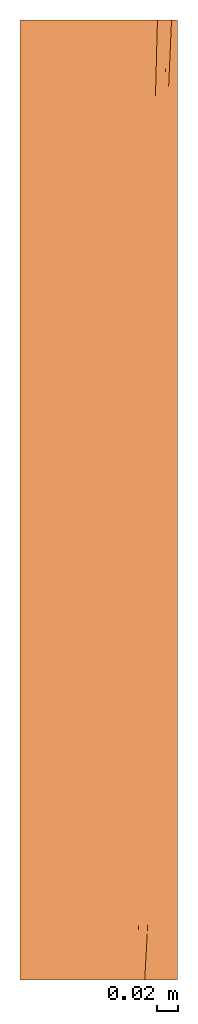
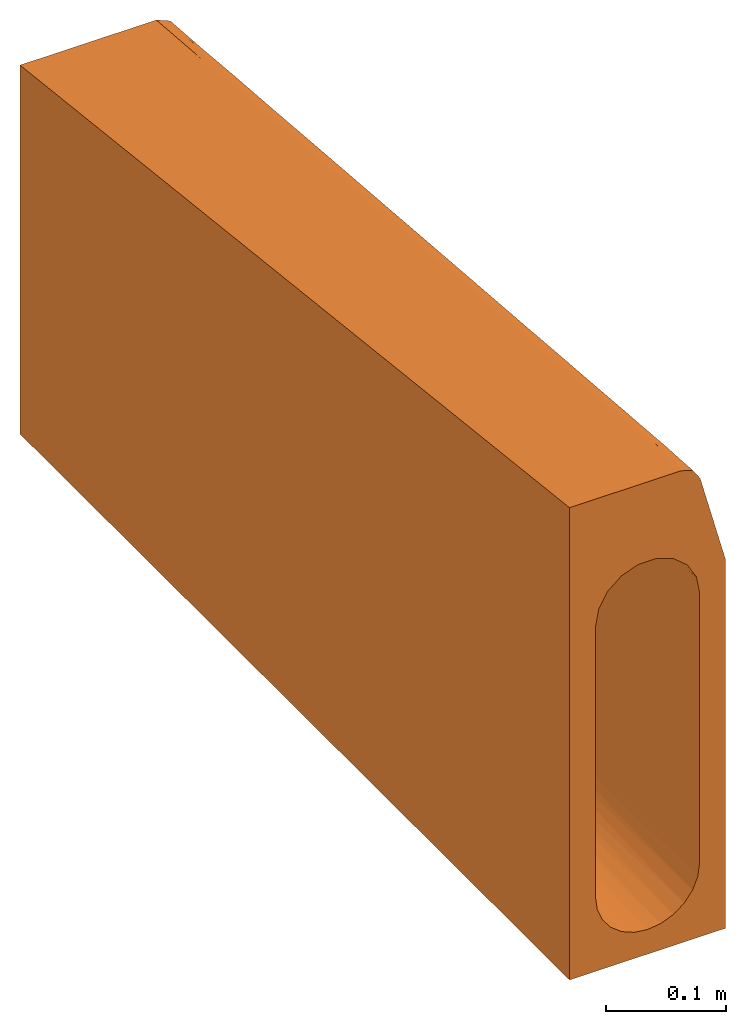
# One storey: 1 proxy.
"""IFC2X3 building model written with IfcOpenShell, lengths in millimetres."""

from ifc_helpers import new_model, entity, si_unit, converted_unit, direction, frame, origin, place, context, subcontext, project, spatial, faceted_brep, source, transform, mapped, material, element, save


model = new_model("IFC2X3")

# Units and contexts
model_context = context("Model", 3, precision=1e-06, world=origin(), true_north=direction((2.0, 6.12303176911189e-17, 1.0)))
context_of_model = context(None, 3, precision=1e-06, world=origin(), true_north=direction((2.0, 6.12303176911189e-17, 1.0)))
body_context = subcontext(model_context, "Body", "Model", "MODEL_VIEW")
ifc_project = project(units=[si_unit("LENGTHUNIT", "METRE", prefix="MILLI"), si_unit("AREAUNIT", "SQUARE_METRE", prefix="MILLI"), si_unit("VOLUMEUNIT", "CUBIC_METRE", prefix="MILLI"), converted_unit("PLANEANGLEUNIT", "DEGREE", entity("IfcRatioMeasure", 0.0174532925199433), si_unit("PLANEANGLEUNIT", "RADIAN"), dimensions=[0, 0, 0, 0, 0, 0, 0]), si_unit("TIMEUNIT", "SECOND")], contexts=[model_context, context_of_model])

# Site, building, storey
site_placement = place(None, origin())
site = spatial("IfcSite", under=ifc_project, at=site_placement, Name="Default", CompositionType="ELEMENT")
building_placement = place(site_placement, origin())
building = spatial("IfcBuilding", under=site, at=building_placement, CompositionType="ELEMENT")
storey_placement = place(building_placement, frame((0.0, 0.0, -300.0)))
storey = spatial("IfcBuildingStorey", under=building, at=storey_placement, Name="T.O. Fnd. Wall", CompositionType="ELEMENT", Elevation=-300.0)

# Proxy
ifc_material = material(Name="ACO Polymer Concrete.")
shared_shape = source(origin(), body_context, "Body", "Brep", [
    faceted_brep([(-75.0, 915.0, -355.0), (-12.9409522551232, 915.0, -328.296291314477), (0.0, 915.0, -330.0), (75.0, 915.0, -355.0), (-25.0, 915.0, -323.301270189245), (-48.2962913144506, 915.0, -292.940952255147), (-43.3012701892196, 915.0, -305.0), (-35.3553390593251, 915.0, -315.35533905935), (-50.0, 915.0, -280.0), (12.94095225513, 915.0, -328.296291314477), (25.0, 915.0, -323.301270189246), (35.355339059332, 915.0, -315.35533905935), (43.3012701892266, 915.0, -305.0), (48.2962913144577, 915.0, -292.940952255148), (50.0, 915.0, -280.0), (50.0, 915.0, -110.0), (75.0, 915.0, 1.0), (-50.0, 915.0, -110.0), (-75.0, 915.0, 20.0), (-46.9862804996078, 915.0, -92.9035253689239), (-25.0056404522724, 915.0, -66.7019868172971), (-31.6586250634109, 915.0, -72.2868986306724), (-38.3116096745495, 915.0, -77.8718104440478), (-8.68537778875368, 915.0, -60.7601359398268), (-16.845509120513, 915.0, -63.7310613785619), (56.0, 915.0, 20.0), (38.2975566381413, 915.0, -77.8550601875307), (25.0028027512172, 915.0, -66.7003481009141), (46.9852258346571, 915.0, -92.9006271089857), (42.6413912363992, 915.0, -85.3778436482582), (8.67379421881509, 915.0, -60.7580941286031), (59.3587572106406, 915.0, 18.6087572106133), (62.7175144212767, 915.0, 17.2175144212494), (16.8382984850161, 915.0, -63.7292211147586), (75.0, 0.0, -355.0), (25.0, 0.0, -323.301270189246), (12.9409522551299, 0.0, -328.296291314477), (35.3553390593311, 0.0, -315.355339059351), (0.0, 0.0, -330.0), (50.0, 0.0, -280.0), (48.2962913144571, 0.0, -292.94095225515), (43.3012701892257, 0.0, -305.0), (75.0, 0.0, 20.0), (50.0, 0.0, -5.0), (-12.9409522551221, 0.0, -328.296291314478), (-75.0, 0.0, -355.0), (-25.0, 0.0, -323.301270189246), (-35.3553390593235, 0.0, -315.355339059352), (-43.3012701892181, 0.0, -305.0), (-48.2962913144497, 0.0, -292.940952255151), (-50.0, 0.0, -280.0), (-50.0, 0.0, -5.0), (-75.0, 0.0, 125.0), (46.9852258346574, 0.0, 12.0993728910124), (38.2975566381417, 0.0, 27.1449398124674), (42.6413912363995, 0.0, 19.6221563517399), (50.6387127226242, 0.0, 110.917561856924), (48.9421818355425, 0.0, 113.456599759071), (32.2861220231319, 0.0, 125.0), (8.6737942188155, 0.0, 44.2419058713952), (25.0028027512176, 0.0, 38.2996518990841), (-38.3116096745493, 0.0, 27.1281895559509), (-31.6586250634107, 0.0, 32.7131013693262), (-25.0056404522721, 0.0, 38.2980131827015), (-46.9862804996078, 0.0, 12.0964746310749), (16.8382984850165, 0.0, 41.2707788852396), (-16.8455091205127, 0.0, 41.2689386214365), (-8.6853777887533, 0.0, 44.2398640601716), (34.3268937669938, 78.7431793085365, 115.963897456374), (46.193976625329, 457.499999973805, -299.134171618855), (6.52630960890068, 663.022798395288, -329.57224306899), (19.1341716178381, 457.499999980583, -326.193976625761), (39.667667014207, 347.332704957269, -310.438071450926), (39.6676670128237, 663.022798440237, -310.438071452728), (30.4380714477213, 567.667295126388, -319.66766701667), (30.4380714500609, 251.977201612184, -319.667667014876), (-39.6676670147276, 251.977201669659, -310.438071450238), (-30.4380714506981, 347.332704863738, -319.667667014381), (-39.6676670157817, 567.667295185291, -310.438071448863), (-30.4380714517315, 663.022798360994, -319.667667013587), (6.52630961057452, 347.332704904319, -329.57224306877), (49.039264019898, 307.805136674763, -289.754516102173), (49.1517479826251, 621.552771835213, -289.17091436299), (50.0, 457.5, -280.0), (-6.52630961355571, 567.667295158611, -329.572243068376), (-6.52630961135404, 251.977201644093, -329.572243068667), (-19.1341716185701, 457.499999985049, -326.193976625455), (-46.1939766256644, 457.499999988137, -299.134171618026), (-49.1517479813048, 293.447228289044, -289.170914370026), (-50.0, 457.5, -280.0), (-49.0392640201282, 607.194863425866, -289.754516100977), (50.0, 228.749977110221, -31.2499973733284), (50.0, 457.499954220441, -57.4999947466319), (-45.6161846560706, 151.374253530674, -1.89732830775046), (-40.525441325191, 151.691640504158, 6.87908369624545), (-26.1425835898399, 319.117169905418, 1.0011808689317), (-22.6264142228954, 468.087887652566, -14.1275009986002), (-17.1054853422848, 291.895291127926, 8.48681992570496), (-13.735126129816, 139.743498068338, 27.0403240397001), (-0.00588310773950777, 207.708977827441, 21.1645431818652), (-45.4895057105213, 457.499999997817, -36.7465696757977), (-43.3061272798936, 291.929965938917, -13.5085746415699), (-48.4959124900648, 343.124993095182, -32.2034556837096), (-50.0, 228.7500118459, -31.2500013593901), (-48.8150241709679, 156.499635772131, -12.1380035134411), (-43.3061272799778, 623.070034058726, -51.5082545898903), (-32.1474698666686, 707.32437630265, -47.8729381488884), (-39.7970535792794, 438.303503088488, -25.0284179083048), (-25.3659134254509, 643.403662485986, -35.7452687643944), (-17.1054853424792, 623.104708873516, -29.5208181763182), (-23.1017905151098, 162.530842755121, 20.6919831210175), (-11.6402777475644, 459.893930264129, -9.14854819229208), (-32.1474698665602, 207.675623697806, 9.46380395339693), (-48.4799848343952, 569.265502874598, -58.0907192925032), (-50.0, 686.2499881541, -83.7499986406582), (-48.7942808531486, 756.658782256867, -80.9155698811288), (-50.0, 457.499976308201, -57.499997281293), (-0.00588310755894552, 707.291022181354, -36.1645438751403), (-11.4413517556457, 757.325485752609, -43.2328484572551), (-21.1360240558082, 769.052356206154, -47.938904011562), (13.9181850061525, 138.224516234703, 27.1619573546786), (8.59170627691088, 254.404820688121, 15.0622990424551), (32.1378413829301, 707.279567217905, -47.8597154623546), (40.5244871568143, 763.441112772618, -63.3203551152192), (45.6152645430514, 763.599441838, -72.1506278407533), (43.2998920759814, 623.114424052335, -51.5025470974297), (48.4789772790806, 345.621480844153, -32.4226594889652), (48.7949775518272, 158.257618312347, -12.2496990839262), (48.8148206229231, 758.504515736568, -81.2196125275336), (48.494218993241, 571.874971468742, -58.4467076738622), (45.5828308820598, 150.802279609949, -1.75753915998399), (40.4735315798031, 152.21638245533, 6.89056462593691), (39.7915875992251, 476.642308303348, -29.4207676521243), (43.2998920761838, 291.88557596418, -13.4926792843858), (32.1378413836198, 207.720432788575, 9.46674258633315), (-40.4721208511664, 762.621200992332, -63.153945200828), (25.8163549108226, 615.344756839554, -32.7937599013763), (22.5221469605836, 757.351350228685, -47.2689104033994), (12.9353951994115, 769.053615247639, -44.9542742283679), (-45.5822848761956, 764.250314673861, -72.1520040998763), (23.266128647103, 163.982440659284, 20.4394017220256), (21.0944374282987, 457.500000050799, -12.1676196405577), (17.0984146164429, 291.892775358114, 8.48968231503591), (10.7994643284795, 482.627578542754, -11.5637059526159), (26.1834725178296, 322.20126002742, 0.622161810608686), (32.1378446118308, 457.500000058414, -19.1964891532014), (50.0, 686.249977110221, -83.7499973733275), (45.4872268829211, 457.500000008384, -36.741575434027), (-32.1474703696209, 457.50000000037, -19.2045675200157), (8.26860876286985, 643.400208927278, -29.5212492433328), (-0.00588490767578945, 457.500000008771, -7.50000034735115), (17.0984146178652, 623.107224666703, -29.5185331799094), (50.8856501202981, 63.0394066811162, 107.254984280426), (52.7351991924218, 78.7431755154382, 101.458263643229), (53.6795264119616, 337.46293807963, 81.3988214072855), (57.4742048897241, 386.236368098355, 72.9933043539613), (55.4994659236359, 410.412668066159, 73.0895472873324), (55.1014570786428, 718.142058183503, 42.1170169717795), (51.9184565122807, 757.513641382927, 38.0722050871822), (49.8776847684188, 678.77046207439, 47.1083076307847), (65.4026202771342, 580.676489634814, 44.8703088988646), (66.6140537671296, 600.027284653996, 38.8371944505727), (66.5197066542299, 635.526354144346, 39.5497201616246), (70.807026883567, 757.513642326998, 19.9185972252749), (70.9358823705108, 796.885235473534, 20.4928432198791), (68.8214997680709, 716.297704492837, 29.7323332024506), (54.637804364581, 196.857953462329, 91.1884042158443), (57.1113157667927, 282.821372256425, 80.6935009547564), (53.6709207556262, 236.229546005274, 90.1107331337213), (56.9435134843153, 783.963138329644, 34.5329504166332), (61.7760264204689, 810.412630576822, 29.9945173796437), (59.196205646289, 851.922983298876, 26.6127383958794), (60.7081023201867, 421.868187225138, 64.7273269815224), (62.5793919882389, 477.365401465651, 57.1547011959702), (59.945863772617, 477.218855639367, 62.397648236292), (52.1023666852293, 531.870735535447, 62.9746010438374), (52.7772817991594, 480.592430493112, 68.0507456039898), (55.6024546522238, 531.376787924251, 61.4270549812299), (64.3526530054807, 776.442357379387, 31.655484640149), (66.4751917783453, 847.072537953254, 23.3188270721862), (56.06091463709, 312.067775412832, 80.7819382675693), (58.9354259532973, 350.604544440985, 72.7215741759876), (59.0246587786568, 314.972708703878, 73.080368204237), (60.922007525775, 386.236352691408, 64.5195747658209), (42.8209605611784, 70.8722623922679, 114.7525426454), (47.6977981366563, 119.388736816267, 106.739326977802), (45.4022130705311, 153.739993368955, 105.005163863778), (45.1833727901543, 324.426173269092, 87.2283792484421), (42.7930015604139, 272.502389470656, 93.4120095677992), (49.255103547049, 302.828823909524, 87.8957139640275), (47.1997767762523, 403.169350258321, 78.1980456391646), (43.7553695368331, 442.54092414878, 74.2166152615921), (41.7145977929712, 363.797744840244, 83.2527178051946), (48.6368035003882, 470.310295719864, 70.5646696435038), (51.9729709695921, 170.49032781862, 97.6649096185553), (52.9255716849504, 131.107566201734, 98.7999594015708), (56.0154340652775, 470.099428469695, 67.1015742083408), (58.6362660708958, 528.763653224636, 59.4489478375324), (51.5281263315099, 264.727165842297, 89.9869595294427), (42.3806827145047, 167.33974380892, 104.898433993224), (35.9799740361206, 142.527282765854, 108.644410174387), (39.7879908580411, 110.635255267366, 111.727832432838), (37.9520330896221, 51.1957895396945, 118.62190521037), (38.0693555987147, 0.0, 123.036856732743), (50.2733474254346, 104.728770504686, 105.229762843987), (59.2054306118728, 609.31108288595, 51.4474674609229), (62.9626182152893, 594.187587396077, 49.0104997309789), (71.0908468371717, 855.437693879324, 16.977404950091), (73.0482898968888, 863.011308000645, 11.6182887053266), (72.2175144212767, 915.0, 7.71751442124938), (58.0156468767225, 678.770470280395, 45.2653002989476), (53.3424662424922, 656.669360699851, 49.207780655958), (54.4878223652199, 607.224558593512, 54.1765128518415), (63.1131524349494, 710.400763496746, 38.8276698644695), (59.8951430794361, 744.591550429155, 37.6309448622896), (66.0762716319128, 915.0, 15.8262716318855), (63.7946867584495, 866.137108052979, 23.3036162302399), (67.8077480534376, 742.415632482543, 30.5104905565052), (68.2309775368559, 799.972124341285, 25.540038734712), (72.9035133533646, 836.256817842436, 10.4592990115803), (49.8306907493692, 190.357270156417, 98.3261762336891), (73.6087572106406, 915.0, 4.35875721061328), (65.5623999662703, 678.770470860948, 38.7384790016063), (68.7105404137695, 678.77046681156, 29.3778954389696), (64.7167050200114, 528.763640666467, 47.3979878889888), (63.3885664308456, 528.763650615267, 52.699959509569), (60.5980423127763, 662.028784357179, 45.3824463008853), (61.6710929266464, 535.991532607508, 55.3725502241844), (45.796141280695, 521.284103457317, 65.1805127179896), (51.4420725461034, 363.343511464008, 80.592446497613), (52.4452790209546, 423.457208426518, 74.0161310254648), (47.8369130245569, 600.027282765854, 56.1444101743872), (70.8262716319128, 915.0, 11.0762716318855), (53.9592282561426, 836.256820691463, 29.0361025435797), (69.4350288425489, 915.0, 14.4350288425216), (39.6738260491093, 285.054565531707, 92.2888203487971), (37.8269000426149, 213.79092414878, 100.466615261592), (47.5083692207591, 236.077510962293, 95.5673076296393), (54.8316858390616, 157.486357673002, 91.9989646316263), (56.9281723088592, 236.22953318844, 82.5396664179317), (62.8193562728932, 457.499996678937, 55.9587813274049), (43.2583373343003, 225.552118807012, 98.4072907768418), (34.5568255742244, 0.0, 124.229200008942), (47.0348839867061, 57.2312735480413, 113.01676879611), (49.0210516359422, 54.24045609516, 110.970454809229), (40.9609723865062, 0.0, 122.055285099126), (43.8525891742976, 0.0, 121.07371346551), (45.5491200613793, 0.0, 118.534675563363), (47.2456509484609, 0.0, 115.995637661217)], [[[0, 1, 2, 3]], [[1, 0, 4]], [[5, 6, 0]], [[7, 4, 0]], [[6, 7, 0]], [[0, 8, 5]], [[3, 9, 10]], [[9, 3, 2]], [[3, 10, 11]], [[11, 12, 3]], [[13, 14, 3]], [[12, 13, 3]], [[3, 14, 15, 16]], [[17, 8, 0, 18]], [[19, 17, 18]], [[18, 20, 21, 22]], [[18, 22, 19]], [[23, 24, 18, 25]], [[16, 26, 27, 25]], [[15, 28, 16]], [[16, 28, 29, 26]], [[25, 30, 23]], [[16, 25, 31, 32]], [[25, 27, 33, 30]], [[34, 35, 36]], [[35, 34, 37]], [[34, 36, 38]], [[39, 40, 34]], [[41, 37, 34]], [[40, 41, 34]], [[39, 34, 42, 43]], [[38, 44, 45, 34]], [[45, 46, 47]], [[46, 45, 44]], [[47, 48, 45]], [[49, 50, 45]], [[48, 49, 45]], [[45, 50, 51, 52]], [[43, 42, 53]], [[42, 54, 55, 53]], [[56, 57, 58, 59]], [[56, 60, 54, 42]], [[52, 61, 62, 63]], [[51, 64, 52]], [[61, 52, 64]], [[56, 59, 65, 60]], [[52, 63, 66, 67]], [[67, 59, 58, 52]], [[18, 0, 45, 52]], [[0, 3, 34, 45]], [[16, 42, 34, 3]], [[18, 52, 58, 68]], [[41, 40, 69]], [[9, 70, 71]], [[72, 73, 74, 75]], [[69, 72, 41]], [[36, 35, 71]], [[76, 47, 77]], [[7, 78, 79]], [[74, 71, 75]], [[12, 73, 69]], [[36, 71, 80]], [[81, 69, 40]], [[82, 83, 14]], [[39, 81, 40]], [[72, 37, 41]], [[11, 10, 74]], [[69, 13, 12]], [[2, 1, 84]], [[73, 72, 69]], [[71, 74, 10]], [[77, 47, 46]], [[71, 10, 9]], [[80, 38, 36]], [[70, 80, 71]], [[80, 70, 84, 85]], [[46, 44, 86]], [[85, 38, 80]], [[2, 84, 70]], [[86, 77, 46]], [[49, 48, 87]], [[76, 48, 47]], [[75, 37, 72]], [[78, 87, 76]], [[7, 79, 4]], [[88, 89, 50]], [[84, 1, 86]], [[86, 1, 4]], [[75, 35, 37]], [[7, 6, 78]], [[82, 81, 83]], [[79, 77, 86]], [[2, 70, 9]], [[78, 6, 87]], [[5, 87, 6]], [[85, 44, 38]], [[5, 90, 87]], [[11, 73, 12]], [[11, 74, 73]], [[85, 84, 86]], [[88, 90, 89]], [[5, 8, 90]], [[35, 75, 71]], [[4, 79, 86]], [[77, 79, 78, 76]], [[44, 85, 86]], [[48, 76, 87]], [[13, 69, 82]], [[83, 81, 39]], [[81, 82, 69]], [[13, 82, 14]], [[49, 87, 88]], [[89, 90, 8]], [[90, 88, 87]], [[49, 88, 50]], [[39, 43, 91, 92]], [[15, 14, 83, 39]], [[61, 93, 94]], [[95, 96, 97]], [[98, 97, 99]], [[100, 101, 102]], [[103, 102, 104]], [[105, 106, 107]], [[96, 108, 109]], [[110, 97, 98]], [[96, 109, 111]], [[101, 94, 93]], [[112, 61, 94]], [[113, 114, 115]], [[113, 102, 116]], [[105, 107, 100]], [[109, 117, 111]], [[118, 119, 24]], [[23, 30, 117]], [[120, 99, 121]], [[26, 122, 27]], [[104, 102, 93]], [[123, 124, 125]], [[24, 119, 20]], [[126, 91, 127]], [[128, 129, 124]], [[130, 55, 131]], [[132, 133, 134]], [[22, 106, 135]], [[122, 136, 137]], [[33, 138, 30]], [[134, 54, 60]], [[123, 29, 124]], [[22, 139, 19]], [[65, 120, 140]], [[67, 99, 59]], [[141, 142, 143]], [[144, 134, 140]], [[141, 136, 145]], [[137, 138, 33]], [[126, 129, 92]], [[146, 129, 128]], [[133, 132, 147]], [[147, 125, 129]], [[116, 102, 103]], [[104, 64, 51]], [[105, 100, 113]], [[139, 115, 19]], [[92, 129, 146]], [[114, 17, 115]], [[113, 116, 114]], [[128, 28, 15]], [[133, 147, 126]], [[130, 127, 53]], [[97, 110, 95]], [[91, 43, 127]], [[126, 92, 91]], [[148, 112, 107, 106]], [[139, 22, 135]], [[109, 108, 119]], [[23, 118, 24]], [[149, 143, 150]], [[120, 59, 99]], [[111, 150, 99]], [[27, 137, 33]], [[132, 145, 122]], [[113, 100, 102]], [[144, 141, 145]], [[103, 104, 51]], [[64, 104, 93]], [[64, 93, 61]], [[101, 93, 102]], [[62, 110, 63]], [[94, 101, 112]], [[105, 113, 139]], [[19, 115, 17]], [[115, 139, 113]], [[135, 105, 139]], [[135, 106, 105]], [[21, 20, 106, 22]], [[146, 128, 15]], [[28, 128, 124]], [[123, 26, 29]], [[125, 124, 129]], [[123, 122, 26]], [[123, 125, 122]], [[29, 28, 124]], [[133, 126, 130]], [[53, 127, 43]], [[127, 130, 126]], [[131, 133, 130]], [[131, 134, 133]], [[131, 54, 134]], [[54, 131, 55]], [[130, 53, 55]], [[101, 100, 107]], [[101, 107, 112]], [[126, 147, 129]], [[125, 147, 132]], [[125, 132, 122]], [[134, 145, 132]], [[119, 108, 106]], [[118, 109, 119]], [[118, 117, 109]], [[118, 23, 117]], [[108, 148, 106]], [[148, 108, 96]], [[112, 148, 95]], [[117, 150, 111]], [[111, 97, 96]], [[97, 111, 99]], [[96, 95, 148]], [[112, 110, 62]], [[95, 110, 112]], [[98, 66, 110]], [[138, 137, 151]], [[67, 98, 99]], [[63, 110, 66]], [[98, 67, 66]], [[138, 117, 30]], [[117, 138, 149]], [[151, 137, 136]], [[137, 27, 122]], [[151, 136, 141]], [[136, 122, 145]], [[151, 141, 143]], [[144, 142, 141]], [[138, 151, 149]], [[121, 99, 150]], [[117, 149, 150]], [[149, 151, 143]], [[142, 144, 140]], [[134, 144, 145]], [[142, 140, 120]], [[60, 140, 134]], [[121, 142, 120]], [[140, 60, 65]], [[121, 143, 142]], [[143, 121, 150]], [[65, 59, 120]], [[62, 61, 112]], [[119, 106, 20]], [[50, 89, 17, 114]], [[152, 57, 153]], [[154, 155, 156]], [[157, 158, 159]], [[160, 161, 162]], [[163, 164, 165]], [[166, 167, 168]], [[169, 170, 171]], [[172, 173, 174]], [[175, 176, 177]], [[170, 178, 179]], [[154, 180, 155]], [[181, 182, 183]], [[184, 185, 186]], [[187, 188, 189]], [[190, 191, 192]], [[193, 176, 175]], [[166, 194, 195]], [[177, 196, 197]], [[180, 198, 168]], [[199, 200, 201]], [[184, 202, 203]], [[185, 204, 194]], [[205, 197, 206]], [[207, 208, 209]], [[210, 157, 211]], [[157, 169, 158]], [[205, 210, 212]], [[213, 178, 214]], [[170, 214, 178]], [[179, 215, 216]], [[217, 164, 218]], [[219, 164, 163]], [[220, 168, 198]], [[153, 195, 152]], [[218, 164, 207]], [[207, 179, 218]], [[208, 16, 221, 209]], [[165, 217, 222]], [[162, 165, 222]], [[162, 223, 165]], [[222, 206, 162]], [[173, 224, 225]], [[225, 160, 206]], [[197, 196, 174]], [[213, 226, 222]], [[197, 174, 227]], [[226, 206, 222]], [[212, 175, 177]], [[175, 228, 193]], [[229, 190, 187]], [[190, 193, 191]], [[156, 230, 229]], [[223, 162, 161]], [[223, 163, 165]], [[231, 175, 212]], [[211, 157, 159]], [[212, 211, 231]], [[214, 157, 210]], [[214, 210, 213]], [[169, 214, 170]], [[226, 213, 210]], [[213, 222, 217]], [[217, 178, 213]], [[232, 179, 207]], [[218, 179, 178]], [[179, 216, 170]], [[214, 169, 157]], [[216, 171, 170]], [[233, 171, 31]], [[171, 233, 169]], [[233, 158, 169]], [[31, 25, 233]], [[232, 207, 209]], [[234, 179, 232]], [[208, 164, 219]], [[164, 208, 207]], [[16, 208, 219]], [[231, 211, 159]], [[210, 211, 212]], [[188, 187, 235]], [[235, 187, 192]], [[187, 189, 229]], [[235, 236, 188]], [[237, 198, 189]], [[187, 190, 192]], [[230, 176, 193]], [[230, 193, 190]], [[196, 176, 230]], [[228, 175, 231]], [[228, 191, 193]], [[176, 196, 177]], [[230, 156, 196]], [[174, 225, 227]], [[156, 174, 196]], [[174, 155, 172]], [[154, 229, 189]], [[174, 156, 155]], [[198, 154, 189]], [[154, 198, 180]], [[166, 238, 239]], [[155, 180, 181]], [[180, 167, 181]], [[173, 172, 240]], [[183, 240, 172]], [[237, 189, 241]], [[198, 237, 220]], [[185, 220, 186]], [[168, 194, 166]], [[183, 172, 181]], [[181, 167, 182]], [[155, 181, 172]], [[194, 168, 220]], [[166, 239, 167]], [[167, 180, 168]], [[239, 182, 167]], [[242, 203, 202]], [[204, 185, 243]], [[68, 58, 242]], [[152, 204, 244]], [[245, 246, 184, 203]], [[68, 201, 200]], [[184, 186, 201]], [[199, 201, 186]], [[184, 246, 243]], [[184, 243, 185]], [[166, 195, 238]], [[243, 246, 247]], [[197, 205, 177]], [[212, 177, 205]], [[199, 237, 241]], [[220, 237, 186]], [[185, 194, 220]], [[195, 194, 204]], [[152, 195, 204]], [[153, 238, 195]], [[244, 204, 243]], [[57, 56, 153]], [[156, 229, 154]], [[229, 230, 190]], [[202, 184, 201]], [[242, 202, 68]], [[68, 202, 201]], [[164, 217, 165]], [[217, 218, 178]], [[206, 160, 162]], [[160, 224, 161]], [[224, 160, 225]], [[210, 205, 226]], [[226, 205, 206]], [[171, 32, 31]], [[171, 216, 32]], [[215, 179, 234]], [[215, 32, 216]], [[188, 236, 241]], [[189, 188, 241]], [[225, 206, 227]], [[199, 236, 200]], [[197, 227, 206]], [[224, 173, 240]], [[174, 173, 225]], [[237, 199, 186]], [[199, 241, 236]], [[247, 244, 243]], [[244, 247, 248]], [[248, 152, 244]], [[152, 248, 57]], [[42, 16, 219, 163]], [[18, 24, 20]], [[16, 32, 215]], [[215, 234, 232, 209]], [[215, 209, 221, 16]], [[58, 57, 248, 247]], [[247, 246, 245, 203]], [[247, 203, 242, 58]], [[18, 68, 200, 236]], [[18, 236, 235, 192]], [[18, 192, 191, 228]], [[18, 228, 231, 159]], [[18, 159, 158, 233]], [[18, 233, 25]], [[39, 92, 146, 15]], [[17, 89, 8]], [[50, 114, 116, 103]], [[50, 103, 51]], [[42, 163, 223, 161]], [[42, 161, 224, 240]], [[42, 240, 183, 182]], [[42, 182, 239, 238]], [[42, 238, 153, 56]]]),
])
proxy_placement = place(storey_placement, frame((-5682.99544306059, -10247.1166238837, 300.0)))
element("IfcBuildingElementProxy", 1, at=proxy_placement, inside=storey, material=ifc_material, Name="Civil-Drainage-Channel-ACO-KerbDrain-HB480(amar):4931 - LH drop kerb - 915mm LG:4931 - LH drop kerb - 915mm LG", ObjectType="4931 - LH drop kerb - 915mm LG", CompositionType="ELEMENT", context=body_context, shape_type="MappedRepresentation", body=[
    mapped(shared_shape, transform((0.0, 0.0, 0.0), scale=1.0)),
])

save(model, "model.ifc")
